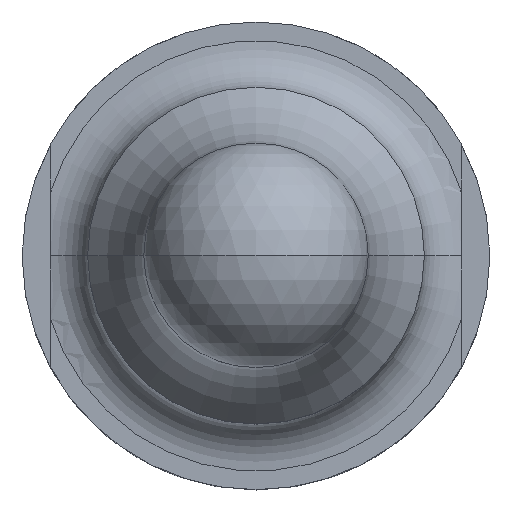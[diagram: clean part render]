
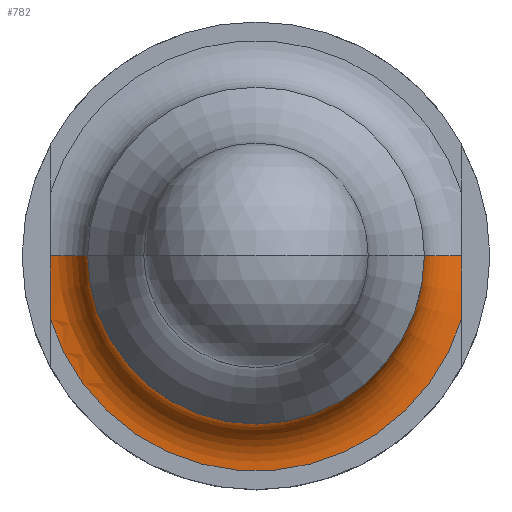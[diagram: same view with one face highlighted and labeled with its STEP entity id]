
A CAD part, top view. The second image highlights one B-rep face of the part: STEP entity #782.
In plain terms, the highlighted toroidal (fillet/blend) face has major radius 11.5 mm and minor radius 2.5 mm.
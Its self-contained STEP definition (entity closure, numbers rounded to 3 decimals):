
#5 = CARTESIAN_POINT ( 'NONE',  ( -9., 0., 60.5 ) ) ;
#62 = CARTESIAN_POINT ( 'NONE',  ( 0., 0., 60.5 ) ) ;
#177 = ORIENTED_EDGE ( 'NONE', *, *, #2578, .F. ) ;
#183 = DIRECTION ( 'NONE',  ( 0., 0., -1. ) ) ;
#196 = VERTEX_POINT ( 'NONE', #1963 ) ;
#258 = DIRECTION ( 'NONE',  ( 0., 0., -1. ) ) ;
#277 = DIRECTION ( 'NONE',  ( -1., 0., 0. ) ) ;
#289 = DIRECTION ( 'NONE',  ( 1., 0., 0. ) ) ;
#314 = CARTESIAN_POINT ( 'NONE',  ( 0., 0., 60.5 ) ) ;
#340 = ORIENTED_EDGE ( 'NONE', *, *, #2692, .T. ) ;
#349 = EDGE_LOOP ( 'NONE', ( #2138, #822, #2013, #388, #177, #340, #1578 ) ) ;
#388 = ORIENTED_EDGE ( 'NONE', *, *, #435, .T. ) ;
#408 = CARTESIAN_POINT ( 'NONE',  ( 10.999, -2.219, 58.016 ) ) ;
#435 = EDGE_CURVE ( 'NONE', #196, #2565, #506, .T. ) ;
#506 = CIRCLE ( 'NONE', #2184, 9. ) ;
#544 = VERTEX_POINT ( 'NONE', #1050 ) ;
#575 = EDGE_CURVE ( 'NONE', #544, #196, #953, .T. ) ;
#613 = CARTESIAN_POINT ( 'NONE',  ( 11., 0., 58.051 ) ) ;
#699 = DIRECTION ( 'NONE',  ( 0., 0., -1. ) ) ;
#713 = AXIS2_PLACEMENT_3D ( 'NONE', #1515, #183, #1961 ) ;
#782 = ADVANCED_FACE ( 'NONE', ( #979 ), #1740, .F. ) ;
#822 = ORIENTED_EDGE ( 'NONE', *, *, #2425, .T. ) ;
#862 = AXIS2_PLACEMENT_3D ( 'NONE', #877, #1551, #893 ) ;
#877 = CARTESIAN_POINT ( 'NONE',  ( -11.5, 0., 60.5 ) ) ;
#893 = DIRECTION ( 'NONE',  ( 0., 0., -1. ) ) ;
#953 = CIRCLE ( 'NONE', #713, 9. ) ;
#971 = CIRCLE ( 'NONE', #2319, 2.5 ) ;
#979 = FACE_OUTER_BOUND ( 'NONE', #349, .T. ) ;
#1050 = CARTESIAN_POINT ( 'NONE',  ( 9., 0., 60.5 ) ) ;
#1053 = CARTESIAN_POINT ( 'NONE',  ( 11., -2.779, 58. ) ) ;
#1166 = VERTEX_POINT ( 'NONE', #1828 ) ;
#1266 = VERTEX_POINT ( 'NONE', #2329 ) ;
#1321 = CARTESIAN_POINT ( 'NONE',  ( 11.5, 0., 60.5 ) ) ;
#1336 = CARTESIAN_POINT ( 'NONE',  ( -10.999, -1.11, 58.041 ) ) ;
#1432 = EDGE_CURVE ( 'NONE', #2208, #1266, #1775, .T. ) ;
#1444 = DIRECTION ( 'NONE',  ( 0., 0., -1. ) ) ;
#1515 = CARTESIAN_POINT ( 'NONE',  ( 0., 0., 60.5 ) ) ;
#1551 = DIRECTION ( 'NONE',  ( 0., -1., 0. ) ) ;
#1578 = ORIENTED_EDGE ( 'NONE', *, *, #1794, .F. ) ;
#1580 = CARTESIAN_POINT ( 'NONE',  ( -11., -2.779, 58. ) ) ;
#1740 = TOROIDAL_SURFACE ( 'NONE', #2841, 11.5, 2.5 ) ;
#1775 = B_SPLINE_CURVE_WITH_KNOTS ( 'NONE', 3,
 ( #2171, #1053, #408, #1935, #2599, #613 ),
 .UNSPECIFIED., .F., .F.,
 ( 4, 2, 4 ),
 ( 0., 0.5, 1. ),
 .UNSPECIFIED. ) ;
#1794 = EDGE_CURVE ( 'NONE', #2208, #2806, #2236, .T. ) ;
#1804 = CARTESIAN_POINT ( 'NONE',  ( -11., -0.559, 58.051 ) ) ;
#1828 = CARTESIAN_POINT ( 'NONE',  ( -11., 0., 58.051 ) ) ;
#1913 = AXIS2_PLACEMENT_3D ( 'NONE', #2263, #258, #289 ) ;
#1935 = CARTESIAN_POINT ( 'NONE',  ( 10.999, -1.11, 58.041 ) ) ;
#1961 = DIRECTION ( 'NONE',  ( 1., 0., 0. ) ) ;
#1963 = CARTESIAN_POINT ( 'NONE',  ( 0., -9., 60.5 ) ) ;
#1968 = DIRECTION ( 'NONE',  ( 0., 1., 0. ) ) ;
#2012 = CARTESIAN_POINT ( 'NONE',  ( -11., -3.354, 58. ) ) ;
#2013 = ORIENTED_EDGE ( 'NONE', *, *, #575, .T. ) ;
#2138 = ORIENTED_EDGE ( 'NONE', *, *, #1432, .T. ) ;
#2171 = CARTESIAN_POINT ( 'NONE',  ( 11., -3.354, 58. ) ) ;
#2184 = AXIS2_PLACEMENT_3D ( 'NONE', #314, #1444, #2327 ) ;
#2208 = VERTEX_POINT ( 'NONE', #2593 ) ;
#2210 = CIRCLE ( 'NONE', #862, 2.5 ) ;
#2223 = CARTESIAN_POINT ( 'NONE',  ( -10.999, -2.219, 58.016 ) ) ;
#2236 = CIRCLE ( 'NONE', #1913, 11.5 ) ;
#2263 = CARTESIAN_POINT ( 'NONE',  ( 0., 0., 58. ) ) ;
#2319 = AXIS2_PLACEMENT_3D ( 'NONE', #1321, #1968, #2793 ) ;
#2327 = DIRECTION ( 'NONE',  ( 1., 0., 0. ) ) ;
#2329 = CARTESIAN_POINT ( 'NONE',  ( 11., 0., 58.051 ) ) ;
#2425 = EDGE_CURVE ( 'NONE', #1266, #544, #971, .T. ) ;
#2492 = CARTESIAN_POINT ( 'NONE',  ( -11., 0., 58.051 ) ) ;
#2565 = VERTEX_POINT ( 'NONE', #5 ) ;
#2578 = EDGE_CURVE ( 'NONE', #1166, #2565, #2210, .T. ) ;
#2593 = CARTESIAN_POINT ( 'NONE',  ( 11., -3.354, 58. ) ) ;
#2599 = CARTESIAN_POINT ( 'NONE',  ( 11., -0.559, 58.051 ) ) ;
#2692 = EDGE_CURVE ( 'NONE', #1166, #2806, #2807, .T. ) ;
#2727 = CARTESIAN_POINT ( 'NONE',  ( -11., -3.354, 58. ) ) ;
#2793 = DIRECTION ( 'NONE',  ( 0., 0., 1. ) ) ;
#2806 = VERTEX_POINT ( 'NONE', #2727 ) ;
#2807 = B_SPLINE_CURVE_WITH_KNOTS ( 'NONE', 3,
 ( #2492, #1804, #1336, #2223, #1580, #2012 ),
 .UNSPECIFIED., .F., .F.,
 ( 4, 2, 4 ),
 ( 0.5, 0.75, 1. ),
 .UNSPECIFIED. ) ;
#2841 = AXIS2_PLACEMENT_3D ( 'NONE', #62, #699, #277 ) ;
